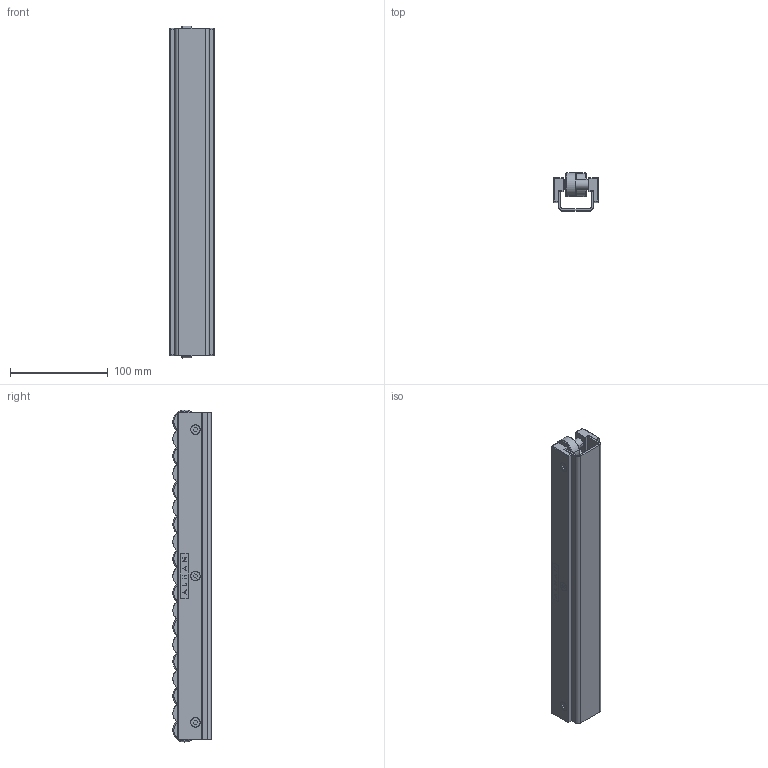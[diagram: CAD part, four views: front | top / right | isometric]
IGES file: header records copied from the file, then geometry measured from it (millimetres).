
Start section: SolidWorks IGES file using analytic representation for surfaces
Global section: file name: C:\Documents and Settings\ARGE\Desktop\yeni katalog tolgay düzenli\B kataloðu\boncuk makara tek sýralý\export\Tek Sýra Boncuk Makara.IGS; native system: SolidWorks 2006 by SolidWorks Corporation; preprocessor: SolidWorks 2006 by SolidWorks Corporation; author: ARGE2; date: 060911.160633; units: millimetre
Bounding box: 46.2 x 39 x 339 mm (x, y, z)
Surface area: 158190.6 mm2 (no closed solid volume)
Topology: 0 solids, 0 shells, 910 faces, 13048 edges, 13044 vertices
Faces by surface type: revolution 458, bspline 452
